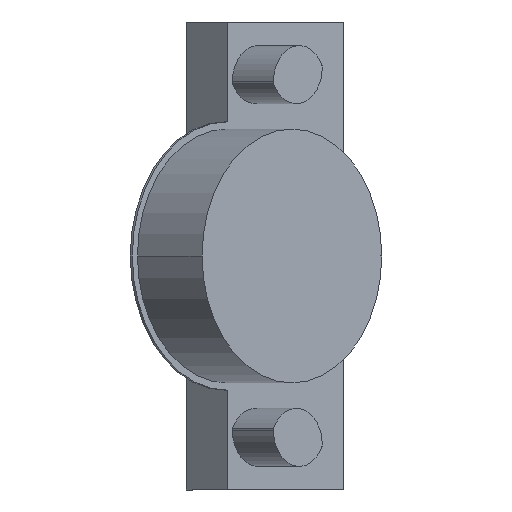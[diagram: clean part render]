
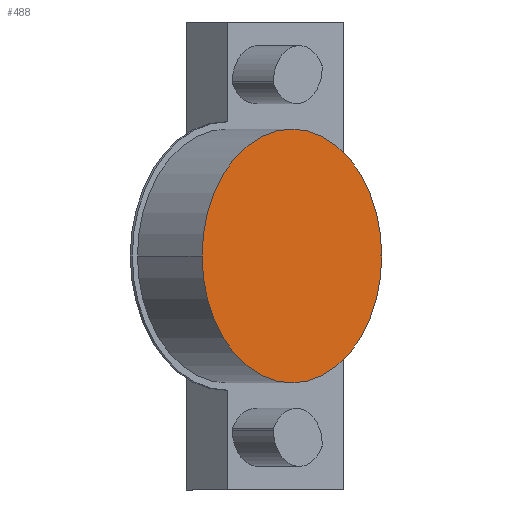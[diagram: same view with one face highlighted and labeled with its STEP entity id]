
A CAD part, front view. The second image highlights one B-rep face of the part: STEP entity #488.
In plain terms, the highlighted planar face has unit normal (0.707, -0.707, 0).
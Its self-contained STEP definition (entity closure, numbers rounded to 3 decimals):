
#21 = ORIENTED_EDGE ( 'NONE', *, *, #379, .T. ) ;
#173 = ORIENTED_EDGE ( 'NONE', *, *, #1069, .T. ) ;
#241 = CIRCLE ( 'NONE', #1560, 17.5 ) ;
#265 = EDGE_LOOP ( 'NONE', ( #173, #21 ) ) ;
#307 = DIRECTION ( 'NONE',  ( 0.707, 0.707, 0. ) ) ;
#379 = EDGE_CURVE ( 'NONE', #480, #1177, #241, .T. ) ;
#436 = DIRECTION ( 'NONE',  ( 0.707, -0.707, 0. ) ) ;
#474 = PLANE ( 'NONE',  #477 ) ;
#477 = AXIS2_PLACEMENT_3D ( 'NONE', #1120, #1478, #1627 ) ;
#480 = VERTEX_POINT ( 'NONE', #611 ) ;
#488 = ADVANCED_FACE ( 'NONE', ( #971 ), #474, .T. ) ;
#611 = CARTESIAN_POINT ( 'NONE',  ( 30.834, -49.775, 0. ) ) ;
#754 = AXIS2_PLACEMENT_3D ( 'NONE', #1183, #947, #1446 ) ;
#947 = DIRECTION ( 'NONE',  ( 0.707, -0.707, 0. ) ) ;
#971 = FACE_OUTER_BOUND ( 'NONE', #265, .T. ) ;
#1069 = EDGE_CURVE ( 'NONE', #1177, #480, #1514, .T. ) ;
#1120 = CARTESIAN_POINT ( 'NONE',  ( 18.46, -62.15, 0. ) ) ;
#1177 = VERTEX_POINT ( 'NONE', #1236 ) ;
#1183 = CARTESIAN_POINT ( 'NONE',  ( 18.46, -62.15, 0. ) ) ;
#1236 = CARTESIAN_POINT ( 'NONE',  ( 6.085, -74.524, 0. ) ) ;
#1446 = DIRECTION ( 'NONE',  ( 0.707, 0.707, 0. ) ) ;
#1461 = CARTESIAN_POINT ( 'NONE',  ( 18.46, -62.15, 0. ) ) ;
#1478 = DIRECTION ( 'NONE',  ( 0.707, -0.707, 0. ) ) ;
#1514 = CIRCLE ( 'NONE', #754, 17.5 ) ;
#1560 = AXIS2_PLACEMENT_3D ( 'NONE', #1461, #436, #307 ) ;
#1627 = DIRECTION ( 'NONE',  ( 0.707, 0.707, 0. ) ) ;
